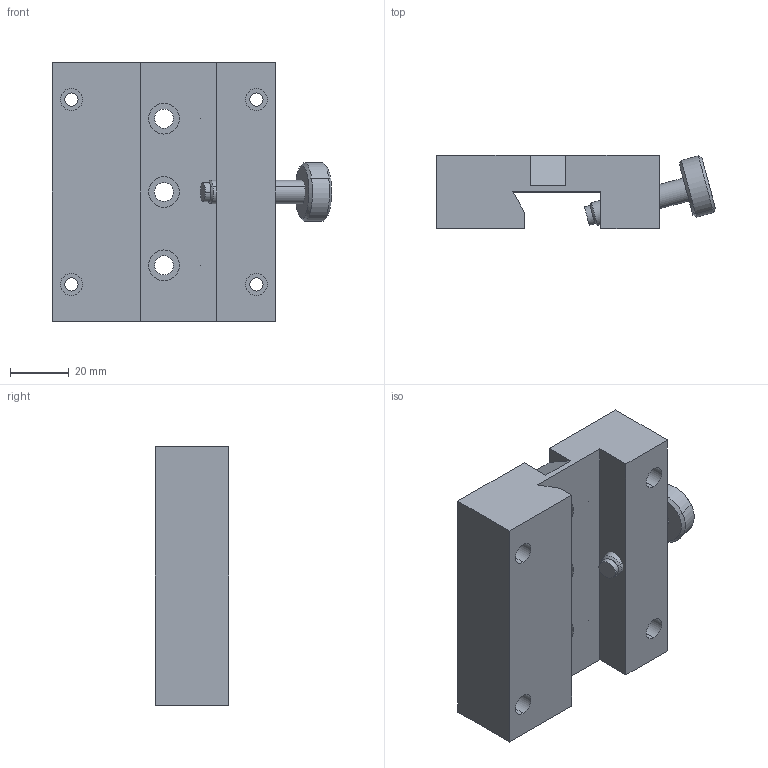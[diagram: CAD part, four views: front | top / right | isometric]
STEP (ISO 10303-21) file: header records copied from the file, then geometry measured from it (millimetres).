
FILE_DESCRIPTION (( 'STEP AP203' ), '1' );
FILE_NAME ('RACA-1.step', '2019-05-09T09:10:29', ( '' ), ( '' ), 'SwSTEP 2.0', 'SolidWorks 2016', '' );
FILE_SCHEMA (( 'CONFIG_CONTROL_DESIGN' ));
Length unit declared in the file: millimetre
Products named in the file (1): RACA-1
Bounding box: 95.1 x 25 x 88 mm (x, y, z)
Surface area: 30410.9 mm2 (no closed solid volume)
Topology: 0 solids, 5 shells, 126 faces, 586 edges, 470 vertices
Faces by surface type: cylinder 75, plane 45, cone 6
Entity records: 6071 total; most frequent: CARTESIAN_POINT 1195, DIRECTION 1000, ORIENTED_EDGE 830, EDGE_CURVE 586, VERTEX_POINT 470, VECTOR 420, LINE 420, AXIS2_PLACEMENT_3D 290
